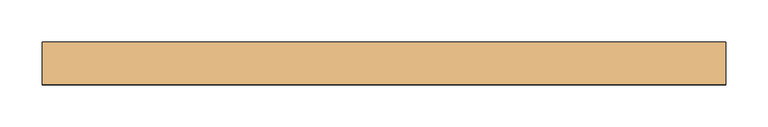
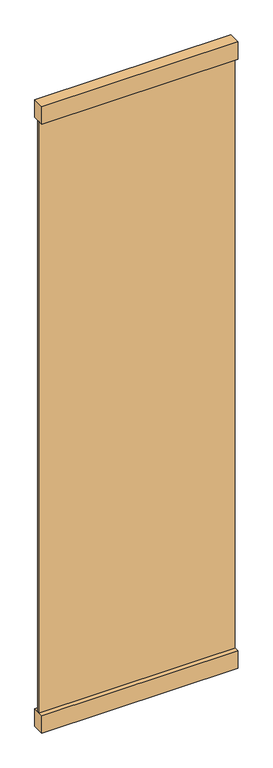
"""IFC4 building model written with IfcOpenShell, lengths in millimetres: door geometry, Planitar - Swap_Full Glass_Panel_D2 : Planitar - Swap_Full Glass_Panel_D2."""

from ifc_helpers import new_model, si_unit, frame, origin, origin_with_axes, place, context, project, spatial, polyline, outline, extrude, source, transform, mapped, element, save


def door_072e9414(model_context):
    return source(origin(), model_context, "Body", "SweptSolid", [
        extrude(outline(polyline([(406.4, 25.4), (406.4, -25.4), (-406.4, -25.4), (-406.4, 25.4), (406.4, 25.4)])), origin_with_axes(), (0.0, 0.0, 1.0), 76.2),
        extrude(outline(polyline([(406.4, 25.4), (406.4, -25.4), (-406.4, -25.4), (-406.4, 25.4), (406.4, 25.4)])), frame((0.0, 0.0, 2667.0), z_axis=(0.0, 0.0, 1.0), x_axis=(1.0, 0.0, 0.0)), (0.0, 0.0, 1.0), 76.2),
        extrude(outline(polyline([(406.4, 6.35), (406.4, -6.35), (-406.4, -6.35), (-406.4, 6.35), (406.4, 6.35)])), frame((0.0, 0.0, 76.2), z_axis=(0.0, 0.0, 1.0), x_axis=(1.0, 0.0, 0.0)), (0.0, 0.0, 1.0), 2590.8),
    ])


if __name__ == "__main__":
    model = new_model("IFC4")
    model_context = context("Model", 3, world=origin())
    ifc_project = project(units=[si_unit("LENGTHUNIT", "METRE", prefix="MILLI")], contexts=[model_context])
    site = spatial("IfcSite", under=ifc_project)
    building = spatial("IfcBuilding", under=site)
    placement = place(None, origin())
    door_shape = door_072e9414(model_context)
    element("IfcDoor", 1, ObjectType="Planitar - Swap_Full Glass_Panel_D2 : Planitar - Swap_Full Glass_Panel_D2", at=placement, inside=building, context=model_context, shape_type="MappedRepresentation", body=[
        mapped(door_shape, transform((0.0, 0.0, 0.0), x_axis=(1.0, 0.0, 0.0), y_axis=(0.0, 1.0, 0.0), z_axis=(0.0, 0.0, 1.0))),
    ])
    save(model, "model.ifc")
